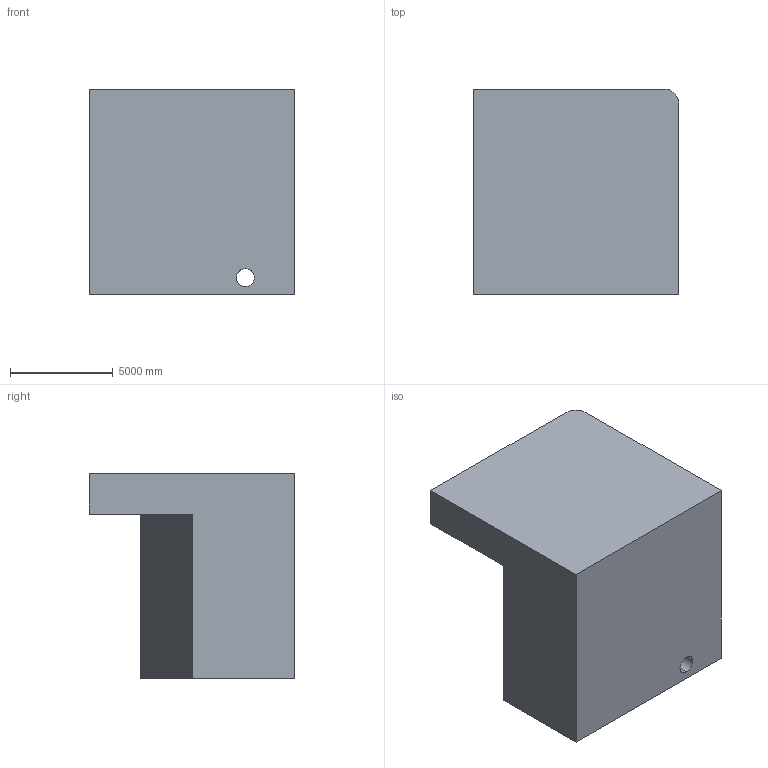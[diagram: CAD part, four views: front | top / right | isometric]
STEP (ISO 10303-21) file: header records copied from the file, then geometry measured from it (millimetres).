
FILE_DESCRIPTION (( 'STEP AP203' ), '1' );
FILE_NAME ('136.STEP', '2022-09-05T15:40:41', ( 'user' ), ( '' ), 'SwSTEP 2.0', 'SolidWorks 2021', '' );
FILE_SCHEMA (( 'CONFIG_CONTROL_DESIGN' ));
Length unit declared in the file: centimetre
Products named in the file (1): 136
Bounding box: 10000 x 10000 x 10000 mm (x, y, z)
Volume: 693499719792.6 mm3; surface area: 560766227.4 mm2
Topology: 1 solids, 1 shells, 15 faces, 36 edges, 24 vertices
Faces by surface type: plane 10, cylinder 5
Entity records: 519 total; most frequent: CARTESIAN_POINT 82, DIRECTION 74, ORIENTED_EDGE 72, EDGE_CURVE 36, VECTOR 26, LINE 26, VERTEX_POINT 24, AXIS2_PLACEMENT_3D 24
